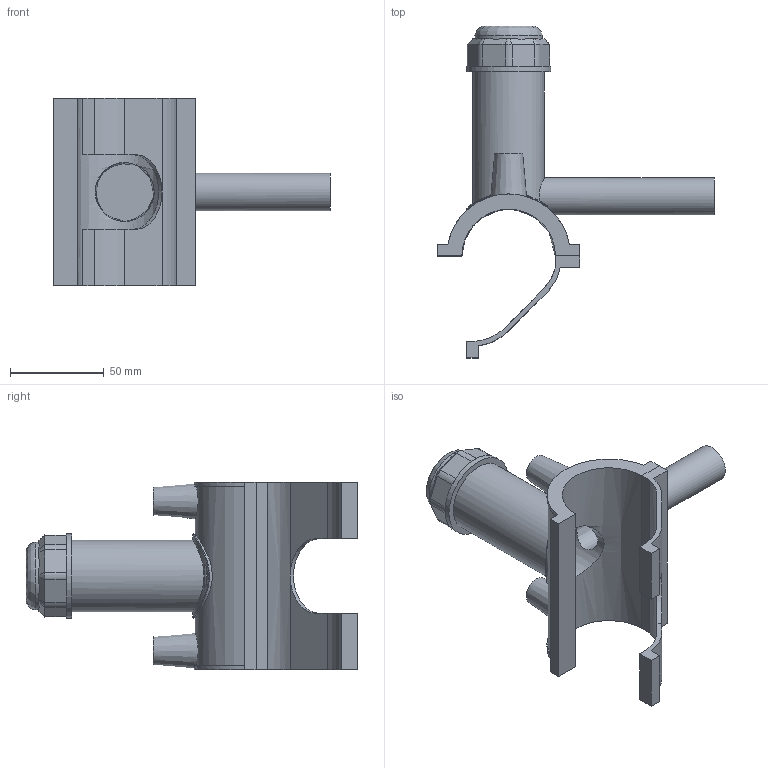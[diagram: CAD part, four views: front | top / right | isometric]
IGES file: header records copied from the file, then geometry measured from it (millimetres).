
Global section: file name: 496304050020.ipt; native system: Autodesk Inventor 2015; preprocessor: unknown; author: KIM; date: 20190124.130605; units: millimetre
Bounding box: 148 x 177.37 x 100 mm (x, y, z)
Volume: 167111 mm3; surface area: 71398.9 mm2
Topology: 2 solids, 2 shells, 111 faces, 283 edges, 185 vertices
Faces by surface type: plane 66, cylinder 23, cone 11, revolution 10, bspline 1
Full cylindrical faces by diameter (mm): 4 x2, 20 x1, 36 x1, 38.25 x1, 45 x1
